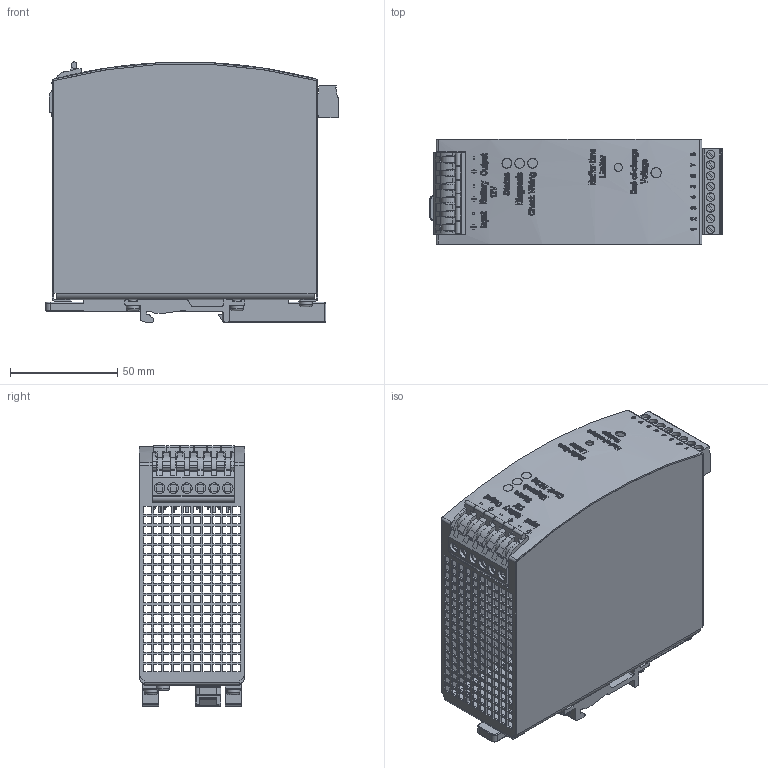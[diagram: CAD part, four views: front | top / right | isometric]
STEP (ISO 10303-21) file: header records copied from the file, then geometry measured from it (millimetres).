
FILE_DESCRIPTION((''),'2;1');
FILE_NAME('C:\Dokumente und Einstellungen\raabk\Eigene Dateien\tmp\357.00.stp','2008-08-26T13:40:43',('raabk'),(''),'Autodesk Inventor 11','Autodesk Inventor 11','');
FILE_SCHEMA(('AUTOMOTIVE_DESIGN { 1 0 10303 214 1 1 1 1 }'));
Length unit declared in the file: millimetre
Products named in the file (12): 357.00; HOUSING BODY 357.00; HOUSING COVER 357.00; T HOLDER; SLIDER; SCREW 3x6; TERMINAL 6P R6,35; CONNECTOR 8P R5 FEMALE; CONNECTOR 8P R5 MALE; LED GN; LED YE; LED RD
Assembly tree (17 placements, depth 2):
  357.00
    HOUSING BODY 357.00
    HOUSING COVER 357.00
    T HOLDER  x2
    SLIDER
    SCREW 3x6  x6
    TERMINAL 6P R6,35
    CONNECTOR 8P R5 FEMALE
    CONNECTOR 8P R5 MALE
    LED GN
    LED YE
    LED RD
Bounding box: 136.3 x 49 x 121.36 mm (x, y, z)
Volume: 89721.3 mm3; surface area: 113711 mm2
Topology: 17 solids, 17 shells, 4232 faces, 11579 edges, 7639 vertices
Faces by surface type: plane 3071, bspline 730, cylinder 399, cone 14, torus 10, sphere 8
Full cylindrical faces by diameter (mm): 0.434 x1, 1.25 x6, 1.4 x16, 2.8 x14, 3 x6, 3.1 x4, 3.783 x8, 3.8 x1, 4 x8, 4.5 x3, 4.6 x3, 4.8 x1, 5 x6, 6 x6
Entity records: 332021 total; most frequent: CARTESIAN_POINT 231877, ORIENTED_EDGE 22294, DIRECTION 16849, EDGE_CURVE 11147, VECTOR 8229, LINE 8229, VERTEX_POINT 7387, EDGE_LOOP 5122
